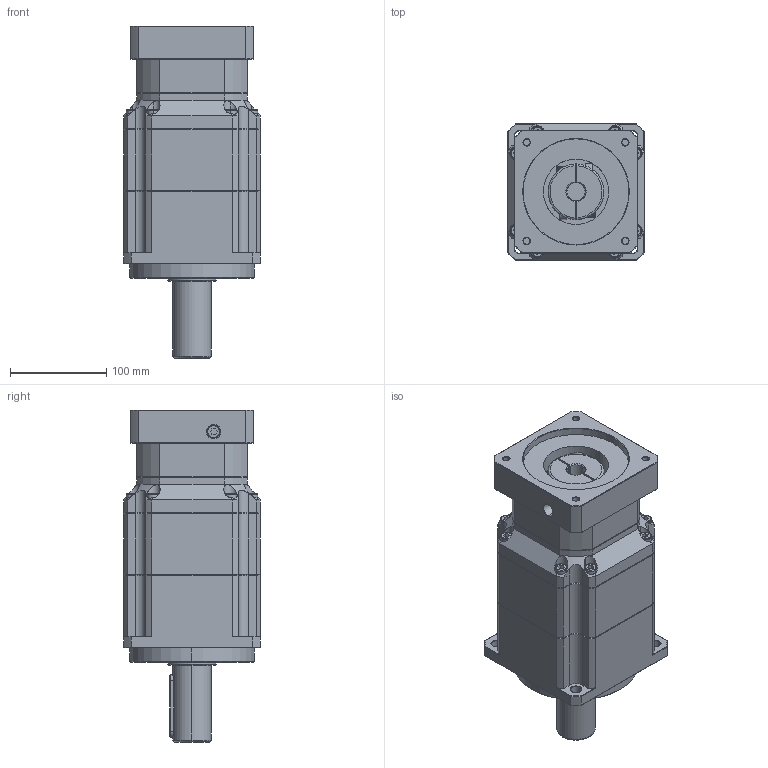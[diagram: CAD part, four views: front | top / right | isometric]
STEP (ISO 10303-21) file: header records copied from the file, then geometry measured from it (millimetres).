
FILE_DESCRIPTION (( 'STEP AP214' ), '1' );
FILE_NAME ('ZPB142-L3-P1-S2-19-110-145-M8.step', '2024-07-05T00:20:17', ( 'Windows 蚚誧' ), ( 'Organization' ), 'SwSTEP 2.0', 'SolidWorks 2016', '' );
FILE_SCHEMA (( 'AUTOMOTIVE_DESIGN' ));
Length unit declared in the file: millimetre
Products named in the file (1): ZPB142-L3-P1-S2-19-110-145-M8
Bounding box: 142 x 142 x 345.5 mm (x, y, z)
Surface area: 232466.4 mm2 (no closed solid volume)
Topology: 0 solids, 3 shells, 1842 faces, 4914 edges, 3172 vertices
Faces by surface type: plane 1056, bspline 397, cylinder 200, cone 189
Full cylindrical faces by diameter (mm): 14 x1
Entity records: 103522 total; most frequent: CARTESIAN_POINT 52514, ORIENTED_EDGE 9797, DIRECTION 7289, EDGE_CURVE 4913, VECTOR 3251, LINE 3251, VERTEX_POINT 3172, AXIS2_PLACEMENT_3D 2019
